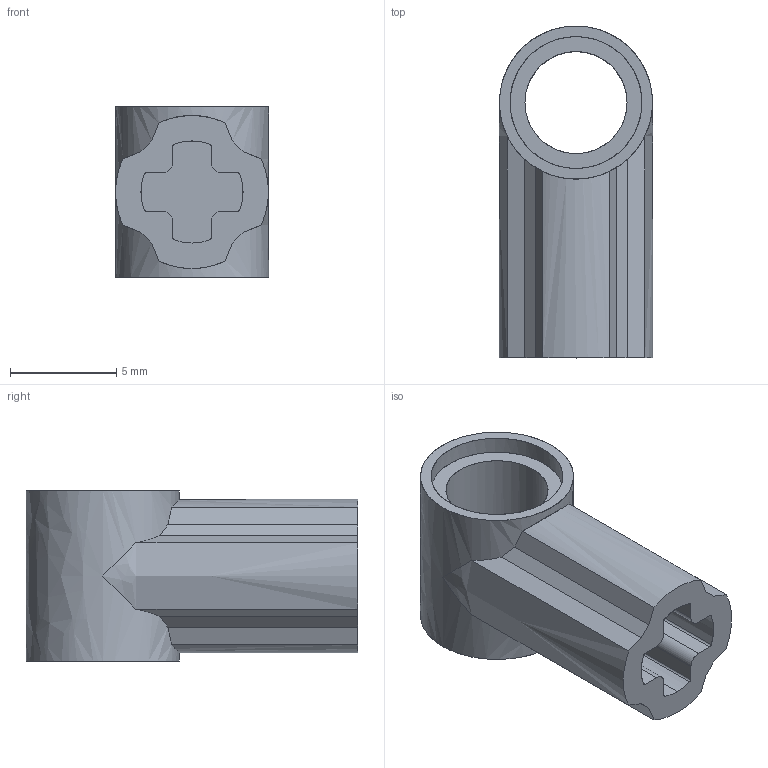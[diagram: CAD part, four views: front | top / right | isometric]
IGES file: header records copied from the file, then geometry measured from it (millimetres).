
Start section: C
Global section: file name: ClGray_4211550_JCA.iges; native system: By Siemens PLM Incorporated; preprocessor: XPlus GENERIC/IGES 26.1.183; author: Author; organization: Title; date: 20250721.235052; units: millimetre
Bounding box: 7.2 x 15.6 x 8 mm (x, y, z)
Surface area: 701.6 mm2 (no closed solid volume)
Topology: 0 solids, 0 shells, 52 faces, 298 edges, 297 vertices
Faces by surface type: bspline 52
